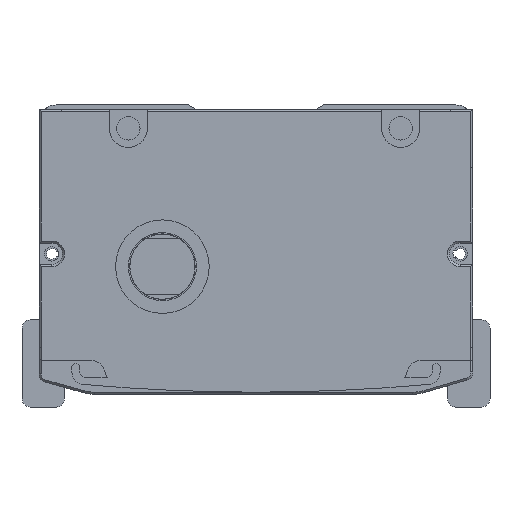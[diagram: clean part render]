
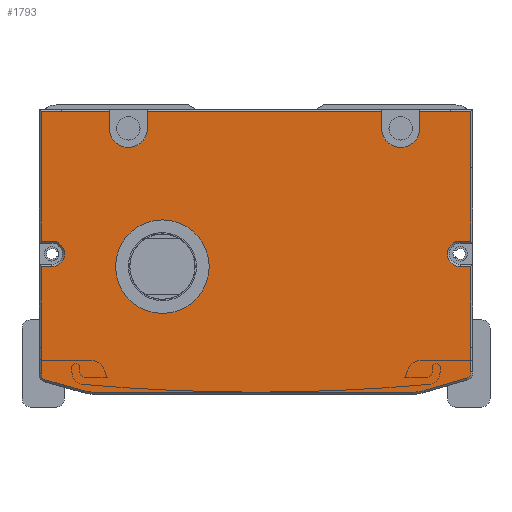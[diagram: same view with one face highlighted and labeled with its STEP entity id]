
A CAD part, front view. The second image highlights one B-rep face of the part: STEP entity #1793.
In plain terms, the highlighted planar face has unit normal (0, -1, 0).
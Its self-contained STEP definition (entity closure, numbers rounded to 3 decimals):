
#1050=FACE_BOUND('',#3703,.T.);
#1051=FACE_BOUND('',#3704,.T.);
#1793=ADVANCED_FACE('',(#1050,#1051),#2526,.F.);
#2526=PLANE('',#14938);
#3703=EDGE_LOOP('',(#6699));
#3704=EDGE_LOOP('',(#6700,#6701,#6702,#6703,#6704,#6705,#6706,#6707,#6708,
#6709,#6710,#6711,#6712,#6713,#6714,#6715,#6716,#6717,#6718,#6719,#6720,
#6721,#6722,#6723,#6724,#6725,#6726,#6727));
#4757=CIRCLE('',#14849,3.);
#4760=CIRCLE('',#14857,3.);
#4763=CIRCLE('',#14869,1.5);
#4765=CIRCLE('',#14873,9.5);
#4767=CIRCLE('',#14877,9.5);
#4769=CIRCLE('',#14881,1.5);
#4774=CIRCLE('',#14896,4.5);
#4778=CIRCLE('',#14902,4.5);
#4779=CIRCLE('',#14911,11.);
#6699=ORIENTED_EDGE('',*,*,#11324,.F.);
#6700=ORIENTED_EDGE('',*,*,#11218,.T.);
#6701=ORIENTED_EDGE('',*,*,#11114,.T.);
#6702=ORIENTED_EDGE('',*,*,#11305,.T.);
#6703=ORIENTED_EDGE('',*,*,#11118,.T.);
#6704=ORIENTED_EDGE('',*,*,#11353,.T.);
#6705=ORIENTED_EDGE('',*,*,#11124,.T.);
#6706=ORIENTED_EDGE('',*,*,#11301,.T.);
#6707=ORIENTED_EDGE('',*,*,#11128,.T.);
#6708=ORIENTED_EDGE('',*,*,#11354,.T.);
#6709=ORIENTED_EDGE('',*,*,#11222,.T.);
#6710=ORIENTED_EDGE('',*,*,#11228,.T.);
#6711=ORIENTED_EDGE('',*,*,#11231,.T.);
#6712=ORIENTED_EDGE('',*,*,#11234,.T.);
#6713=ORIENTED_EDGE('',*,*,#11236,.T.);
#6714=ORIENTED_EDGE('',*,*,#11266,.T.);
#6715=ORIENTED_EDGE('',*,*,#11270,.T.);
#6716=ORIENTED_EDGE('',*,*,#11273,.T.);
#6717=ORIENTED_EDGE('',*,*,#11276,.T.);
#6718=ORIENTED_EDGE('',*,*,#11279,.T.);
#6719=ORIENTED_EDGE('',*,*,#11282,.T.);
#6720=ORIENTED_EDGE('',*,*,#11285,.T.);
#6721=ORIENTED_EDGE('',*,*,#11287,.T.);
#6722=ORIENTED_EDGE('',*,*,#11264,.T.);
#6723=ORIENTED_EDGE('',*,*,#11254,.T.);
#6724=ORIENTED_EDGE('',*,*,#11251,.T.);
#6725=ORIENTED_EDGE('',*,*,#11248,.T.);
#6726=ORIENTED_EDGE('',*,*,#11245,.T.);
#6727=ORIENTED_EDGE('',*,*,#11240,.T.);
#9613=VERTEX_POINT('',#22049);
#9614=VERTEX_POINT('',#22051);
#9617=VERTEX_POINT('',#22058);
#9618=VERTEX_POINT('',#22060);
#9623=VERTEX_POINT('',#22071);
#9624=VERTEX_POINT('',#22073);
#9627=VERTEX_POINT('',#22080);
#9628=VERTEX_POINT('',#22082);
#9686=VERTEX_POINT('',#22268);
#9689=VERTEX_POINT('',#22276);
#9690=VERTEX_POINT('',#22277);
#9695=VERTEX_POINT('',#22288);
#9697=VERTEX_POINT('',#22294);
#9698=VERTEX_POINT('',#22299);
#9700=VERTEX_POINT('',#22305);
#9703=VERTEX_POINT('',#22313);
#9705=VERTEX_POINT('',#22319);
#9707=VERTEX_POINT('',#22325);
#9709=VERTEX_POINT('',#22331);
#9711=VERTEX_POINT('',#22337);
#9718=VERTEX_POINT('',#22361);
#9719=VERTEX_POINT('',#22365);
#9722=VERTEX_POINT('',#22372);
#9724=VERTEX_POINT('',#22378);
#9726=VERTEX_POINT('',#22384);
#9728=VERTEX_POINT('',#22390);
#9730=VERTEX_POINT('',#22396);
#9732=VERTEX_POINT('',#22402);
#9744=VERTEX_POINT('',#22475);
#11114=EDGE_CURVE('',#9614,#9613,#12787,.T.);
#11118=EDGE_CURVE('',#9618,#9617,#12791,.T.);
#11124=EDGE_CURVE('',#9624,#9623,#12797,.T.);
#11128=EDGE_CURVE('',#9628,#9627,#12801,.T.);
#11218=EDGE_CURVE('',#9686,#9614,#12874,.T.);
#11222=EDGE_CURVE('',#9689,#9690,#12878,.T.);
#11228=EDGE_CURVE('',#9690,#9695,#12884,.T.);
#11231=EDGE_CURVE('',#9695,#9697,#4757,.T.);
#11234=EDGE_CURVE('',#9697,#9698,#12888,.T.);
#11236=EDGE_CURVE('',#9698,#9700,#12890,.T.);
#11240=EDGE_CURVE('',#9703,#9686,#12894,.T.);
#11245=EDGE_CURVE('',#9705,#9703,#12899,.T.);
#11248=EDGE_CURVE('',#9707,#9705,#4760,.T.);
#11251=EDGE_CURVE('',#9709,#9707,#12903,.T.);
#11254=EDGE_CURVE('',#9711,#9709,#12906,.T.);
#11264=EDGE_CURVE('',#9718,#9711,#12914,.T.);
#11266=EDGE_CURVE('',#9700,#9719,#12916,.T.);
#11270=EDGE_CURVE('',#9719,#9722,#4763,.T.);
#11273=EDGE_CURVE('',#9722,#9724,#12921,.T.);
#11276=EDGE_CURVE('',#9724,#9726,#4765,.T.);
#11279=EDGE_CURVE('',#9726,#9728,#12925,.T.);
#11282=EDGE_CURVE('',#9728,#9730,#4767,.T.);
#11285=EDGE_CURVE('',#9730,#9732,#12929,.T.);
#11287=EDGE_CURVE('',#9732,#9718,#4769,.T.);
#11301=EDGE_CURVE('',#9623,#9628,#4774,.T.);
#11305=EDGE_CURVE('',#9613,#9618,#4778,.T.);
#11324=EDGE_CURVE('',#9744,#9744,#4779,.T.);
#11353=EDGE_CURVE('',#9617,#9624,#12980,.T.);
#11354=EDGE_CURVE('',#9627,#9689,#12981,.T.);
#12787=LINE('',#22050,#13731);
#12791=LINE('',#22059,#13735);
#12797=LINE('',#22072,#13741);
#12801=LINE('',#22081,#13745);
#12874=LINE('',#22267,#13818);
#12878=LINE('',#22275,#13822);
#12884=LINE('',#22289,#13828);
#12888=LINE('',#22301,#13832);
#12890=LINE('',#22304,#13834);
#12894=LINE('',#22312,#13838);
#12899=LINE('',#22322,#13843);
#12903=LINE('',#22334,#13847);
#12906=LINE('',#22340,#13850);
#12914=LINE('',#22360,#13858);
#12916=LINE('',#22364,#13860);
#12921=LINE('',#22379,#13865);
#12925=LINE('',#22391,#13869);
#12929=LINE('',#22403,#13873);
#12980=LINE('',#22537,#13924);
#12981=LINE('',#22538,#13925);
#13731=VECTOR('',#17131,1.);
#13735=VECTOR('',#17137,1.);
#13741=VECTOR('',#17145,1.);
#13745=VECTOR('',#17151,1.);
#13818=VECTOR('',#17318,1.);
#13822=VECTOR('',#17324,1.);
#13828=VECTOR('',#17332,1.);
#13832=VECTOR('',#17344,1.);
#13834=VECTOR('',#17348,1.);
#13838=VECTOR('',#17354,1.);
#13843=VECTOR('',#17361,1.);
#13847=VECTOR('',#17373,1.);
#13850=VECTOR('',#17378,1.);
#13858=VECTOR('',#17400,1.);
#13860=VECTOR('',#17404,1.);
#13865=VECTOR('',#17417,1.);
#13869=VECTOR('',#17429,1.);
#13873=VECTOR('',#17441,1.);
#13924=VECTOR('',#17608,1.);
#13925=VECTOR('',#17609,1.);
#14849=AXIS2_PLACEMENT_3D('',#22295,#17337,#17338);
#14857=AXIS2_PLACEMENT_3D('',#22328,#17367,#17368);
#14869=AXIS2_PLACEMENT_3D('',#22373,#17410,#17411);
#14873=AXIS2_PLACEMENT_3D('',#22385,#17422,#17423);
#14877=AXIS2_PLACEMENT_3D('',#22397,#17434,#17435);
#14881=AXIS2_PLACEMENT_3D('',#22406,#17445,#17446);
#14896=AXIS2_PLACEMENT_3D('',#22432,#17484,#17485);
#14902=AXIS2_PLACEMENT_3D('',#22440,#17496,#17497);
#14911=AXIS2_PLACEMENT_3D('',#22474,#17532,#17533);
#14938=AXIS2_PLACEMENT_3D('',#22539,#17610,#17611);
#17131=DIRECTION('',(0.,0.,-1.));
#17137=DIRECTION('',(0.,0.,1.));
#17145=DIRECTION('',(0.,0.,-1.));
#17151=DIRECTION('',(0.,0.,1.));
#17318=DIRECTION('',(-1.,0.,0.));
#17324=DIRECTION('',(0.,0.,-1.));
#17332=DIRECTION('',(1.,0.,0.));
#17337=DIRECTION('',(0.,1.,0.));
#17338=DIRECTION('',(0.,0.,1.));
#17344=DIRECTION('',(-1.,0.,0.));
#17348=DIRECTION('',(0.,0.,-1.));
#17354=DIRECTION('',(0.,0.,1.));
#17361=DIRECTION('',(1.,0.,0.));
#17367=DIRECTION('',(0.,1.,0.));
#17368=DIRECTION('',(0.,0.,1.));
#17373=DIRECTION('',(-1.,0.,0.));
#17378=DIRECTION('',(0.,0.,1.));
#17400=DIRECTION('',(0.,0.,1.));
#17404=DIRECTION('',(0.,0.,-1.));
#17410=DIRECTION('',(0.,-1.,0.));
#17411=DIRECTION('',(0.,0.,1.));
#17417=DIRECTION('',(0.963,0.,-0.269));
#17422=DIRECTION('',(0.,-1.,0.));
#17423=DIRECTION('',(0.,0.,1.));
#17429=DIRECTION('',(1.,0.,0.));
#17434=DIRECTION('',(0.,-1.,0.));
#17435=DIRECTION('',(0.,0.,1.));
#17441=DIRECTION('',(0.959,0.,0.282));
#17445=DIRECTION('',(0.,-1.,0.));
#17446=DIRECTION('',(0.,0.,1.));
#17484=DIRECTION('',(0.,1.,0.));
#17485=DIRECTION('',(0.,0.,1.));
#17496=DIRECTION('',(0.,1.,0.));
#17497=DIRECTION('',(0.,0.,1.));
#17532=DIRECTION('',(0.,-1.,0.));
#17533=DIRECTION('',(0.,0.,1.));
#17608=DIRECTION('',(-1.,0.,0.));
#17609=DIRECTION('',(-1.,0.,0.));
#17610=DIRECTION('',(0.,1.,0.));
#17611=DIRECTION('',(1.,0.,0.));
#22049=CARTESIAN_POINT('',(35.308,-657.5,-5.5));
#22050=CARTESIAN_POINT('',(35.308,-657.5,-1.));
#22051=CARTESIAN_POINT('',(35.308,-657.5,-1.5));
#22058=CARTESIAN_POINT('',(26.308,-657.5,-1.5));
#22059=CARTESIAN_POINT('',(26.308,-657.5,-1.));
#22060=CARTESIAN_POINT('',(26.308,-657.5,-5.5));
#22071=CARTESIAN_POINT('',(-28.692,-657.5,-5.5));
#22072=CARTESIAN_POINT('',(-28.692,-657.5,-1.));
#22073=CARTESIAN_POINT('',(-28.692,-657.5,-1.5));
#22080=CARTESIAN_POINT('',(-37.692,-657.5,-1.5));
#22081=CARTESIAN_POINT('',(-37.692,-657.5,-1.));
#22082=CARTESIAN_POINT('',(-37.692,-657.5,-5.5));
#22267=CARTESIAN_POINT('',(-53.692,-657.5,-1.5));
#22268=CARTESIAN_POINT('',(47.308,-657.5,-1.5));
#22275=CARTESIAN_POINT('',(-53.692,-657.5,-32.5));
#22276=CARTESIAN_POINT('',(-53.692,-657.5,-1.5));
#22277=CARTESIAN_POINT('',(-53.692,-657.5,-32.));
#22288=CARTESIAN_POINT('',(-51.192,-657.5,-32.));
#22289=CARTESIAN_POINT('',(-3.192,-657.5,-32.));
#22294=CARTESIAN_POINT('',(-51.192,-657.5,-38.));
#22295=CARTESIAN_POINT('',(-51.192,-657.5,-35.));
#22299=CARTESIAN_POINT('',(-53.692,-657.5,-38.));
#22301=CARTESIAN_POINT('',(-3.192,-657.5,-38.));
#22304=CARTESIAN_POINT('',(-53.692,-657.5,-57.));
#22305=CARTESIAN_POINT('',(-53.692,-657.5,-57.));
#22312=CARTESIAN_POINT('',(47.308,-657.5,-1.5));
#22313=CARTESIAN_POINT('',(47.308,-657.5,-32.));
#22319=CARTESIAN_POINT('',(44.808,-657.5,-32.));
#22322=CARTESIAN_POINT('',(-3.192,-657.5,-32.));
#22325=CARTESIAN_POINT('',(44.808,-657.5,-38.));
#22328=CARTESIAN_POINT('',(44.808,-657.5,-35.));
#22331=CARTESIAN_POINT('',(47.308,-657.5,-38.));
#22334=CARTESIAN_POINT('',(-3.192,-657.5,-38.));
#22337=CARTESIAN_POINT('',(47.308,-657.5,-57.));
#22340=CARTESIAN_POINT('',(47.308,-657.5,-37.5));
#22360=CARTESIAN_POINT('',(47.308,-657.5,-37.5));
#22361=CARTESIAN_POINT('',(47.308,-657.5,-62.758));
#22364=CARTESIAN_POINT('',(-53.692,-657.5,-59.712));
#22365=CARTESIAN_POINT('',(-53.692,-657.5,-63.212));
#22372=CARTESIAN_POINT('',(-52.596,-657.5,-64.657));
#22373=CARTESIAN_POINT('',(-52.192,-657.5,-63.212));
#22378=CARTESIAN_POINT('',(-43.674,-657.5,-67.15));
#22379=CARTESIAN_POINT('',(-43.674,-657.5,-67.15));
#22384=CARTESIAN_POINT('',(-41.118,-657.5,-67.5));
#22385=CARTESIAN_POINT('',(-41.118,-657.5,-58.));
#22390=CARTESIAN_POINT('',(33.631,-657.5,-67.5));
#22391=CARTESIAN_POINT('',(33.631,-657.5,-67.5));
#22396=CARTESIAN_POINT('',(36.312,-657.5,-67.114));
#22397=CARTESIAN_POINT('',(33.631,-657.5,-58.));
#22402=CARTESIAN_POINT('',(46.231,-657.5,-64.197));
#22403=CARTESIAN_POINT('',(46.231,-657.5,-64.197));
#22406=CARTESIAN_POINT('',(45.808,-657.5,-62.758));
#22432=CARTESIAN_POINT('',(-33.192,-657.5,-5.5));
#22440=CARTESIAN_POINT('',(30.808,-657.5,-5.5));
#22474=CARTESIAN_POINT('',(-25.192,-657.5,-38.));
#22475=CARTESIAN_POINT('',(-25.192,-657.5,-27.));
#22537=CARTESIAN_POINT('',(-53.692,-657.5,-1.5));
#22538=CARTESIAN_POINT('',(-53.692,-657.5,-1.5));
#22539=CARTESIAN_POINT('',(-3.192,-657.5,-1.));
